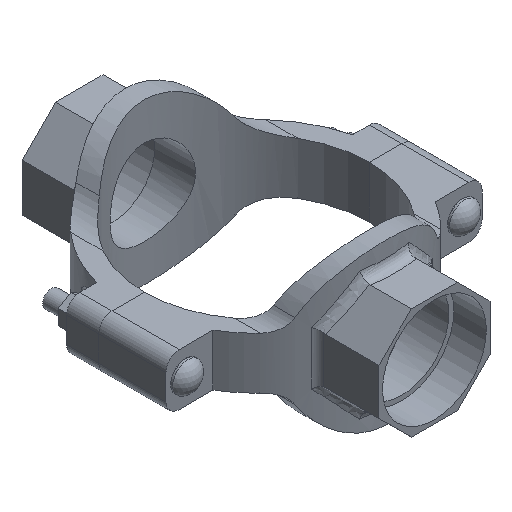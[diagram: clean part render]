
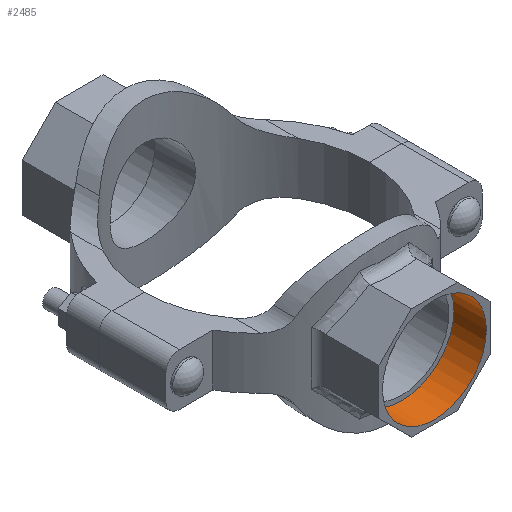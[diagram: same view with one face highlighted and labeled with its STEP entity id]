
A CAD part, isometric view. The second image highlights one B-rep face of the part: STEP entity #2485.
In plain terms, the highlighted cylindrical face has radius 38.1 mm (diameter 76.2 mm), a full revolution.
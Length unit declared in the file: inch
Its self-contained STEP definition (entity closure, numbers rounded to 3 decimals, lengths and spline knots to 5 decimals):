
#151=CYLINDRICAL_SURFACE('',#2757,1.5);
#287=FACE_OUTER_BOUND('',#432,.T.);
#432=EDGE_LOOP('',(#2023,#2024,#2025,#2026));
#613=LINE('',#4915,#797);
#797=VECTOR('',#3317,1.5);
#905=CIRCLE('',#2758,1.5);
#906=CIRCLE('',#2759,1.5);
#1118=VERTEX_POINT('',#4912);
#1119=VERTEX_POINT('',#4914);
#1437=EDGE_CURVE('',#1118,#1118,#905,.T.);
#1438=EDGE_CURVE('',#1118,#1119,#613,.T.);
#1439=EDGE_CURVE('',#1119,#1119,#906,.T.);
#2023=ORIENTED_EDGE('',*,*,#1437,.F.);
#2024=ORIENTED_EDGE('',*,*,#1438,.T.);
#2025=ORIENTED_EDGE('',*,*,#1439,.T.);
#2026=ORIENTED_EDGE('',*,*,#1438,.F.);
#2485=ADVANCED_FACE('',(#287),#151,.F.);
#2757=AXIS2_PLACEMENT_3D('',#4911,#3313,#3314);
#2758=AXIS2_PLACEMENT_3D('',#4913,#3315,#3316);
#2759=AXIS2_PLACEMENT_3D('',#4916,#3318,#3319);
#3313=DIRECTION('center_axis',(0.,-1.,0.));
#3314=DIRECTION('ref_axis',(-1.,0.,0.));
#3315=DIRECTION('center_axis',(0.,-1.,0.));
#3316=DIRECTION('ref_axis',(-1.,0.,0.));
#3317=DIRECTION('',(0.,-1.,0.));
#3318=DIRECTION('center_axis',(0.,-1.,0.));
#3319=DIRECTION('ref_axis',(-1.,0.,0.));
#4911=CARTESIAN_POINT('Origin',(0.,5.13,0.));
#4912=CARTESIAN_POINT('',(1.5,5.13,0.));
#4913=CARTESIAN_POINT('Origin',(0.,5.13,0.));
#4914=CARTESIAN_POINT('',(1.5,4.19,0.));
#4915=CARTESIAN_POINT('',(1.5,5.13,0.));
#4916=CARTESIAN_POINT('Origin',(0.,4.19,0.));
